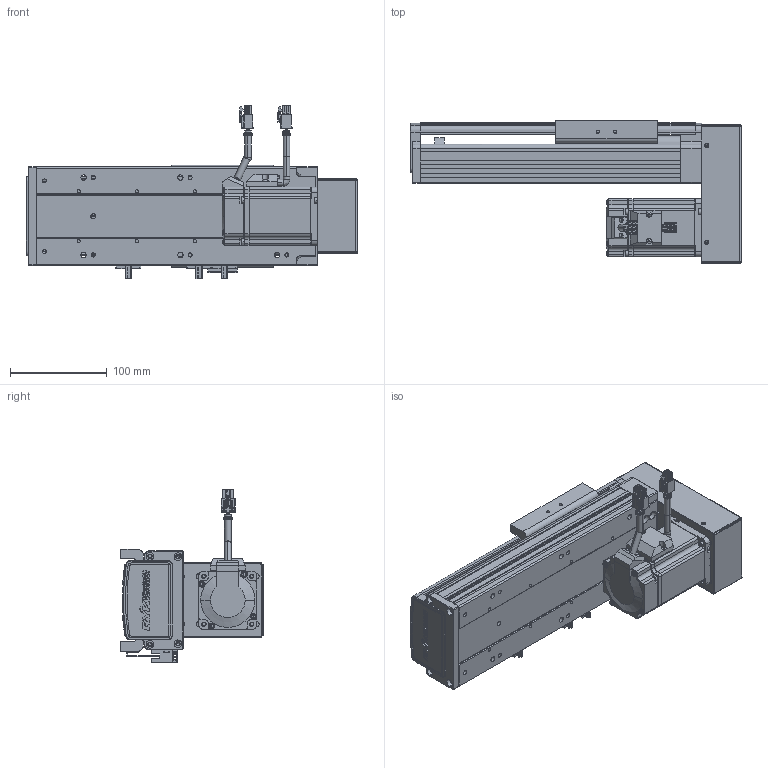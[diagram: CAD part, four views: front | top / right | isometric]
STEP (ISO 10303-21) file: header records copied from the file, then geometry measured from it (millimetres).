
FILE_DESCRIPTION (( 'STEP AP203' ), '1' );
FILE_NAME ('RY100S-L1620-300-BK(15双轨).SLDASM_100.step', '2021-02-20T08:22:37', ( '盈信电脑' ), ( '东莞市道滘镇水果街19号' ), 'SwSTEP 2.0', 'SolidWorks 2012', '' );
FILE_SCHEMA (( 'CONFIG_CONTROL_DESIGN' ));
Products named in the file (26): RY100S-狟殏萇儂郪; 肮祭湍5M遵15笚酗260; RY100S下折电机安装板（15双轨）; RY100S-L1620-300-BK(15邧寢).SLDASM_100; 侂狟200W萇儂; 7; 6; 2; 5; 4; 3; 3M30喘15遵; RY100S狟殏萇儂欶(15邧寢); RY80肮祭湍覃踡啣; 1; RY100S-絳寢EGH15-350-LK(腴郪15邧寢)_100; 滅袉蝶18-24; RY80肮祭湍芢雄輸; RY100綴裔啣; 滅袉蝶18-10; RY100俋离覜茼え; RY100S转折电机端支撑座(15双轨); RY100S铝滑块（15双轨单滑块）底组装导轨; RY100S-350-LK型材底座(低组15双轨)_100; RY100S-300-LK转折型材上盖(15双轨)_100; 覜茼ん672
Assembly tree (28 placements, depth 4):
  RY100S-L1620-300-BK(15邧寢).SLDASM_100
    RY100S-350-LK型材底座(低组15双轨)_100
    RY100S-300-LK转折型材上盖(15双轨)_100
    RY100S铝滑块（15双轨单滑块）底组装导轨
    覜茼ん672  x3
    滅袉蝶18-10
    RY100俋离覜茼え
    RY100S转折电机端支撑座(15双轨)
    滅袉蝶18-24
    RY100綴裔啣
    RY100S-絳寢EGH15-350-LK(腴郪15邧寢)_100
    RY100S-狟殏萇儂郪
      RY80肮祭湍芢雄輸  x2
      RY100S狟殏萇儂欶(15邧寢)
      3M30喘15遵
      RY80肮祭湍覃踡啣
      侂狟200W萇儂
        1
        2
        3
        4
        5
        6
        7
      肮祭湍5M遵15笚酗260
      RY100S下折电机安装板（15双轨）
Bounding box: 342 x 147 x 179.5 mm (x, y, z)
Volume: 1291668.6 mm3; surface area: 461992.8 mm2
Topology: 26 solids, 26 shells, 3090 faces, 8277 edges, 5328 vertices
Faces by surface type: plane 1670, cylinder 1137, cone 169, bspline 114
Entity records: 99673 total; most frequent: CARTESIAN_POINT 24394, ORIENTED_EDGE 15258, DIRECTION 14898, EDGE_CURVE 7629, AXIS2_PLACEMENT_3D 5038, VERTEX_POINT 4964, VECTOR 4822, LINE 4822
